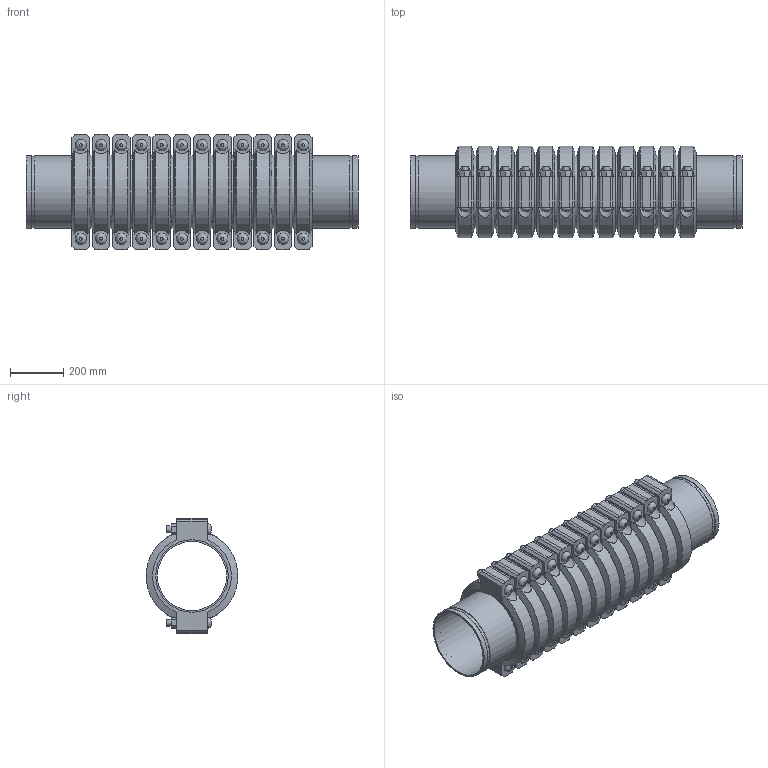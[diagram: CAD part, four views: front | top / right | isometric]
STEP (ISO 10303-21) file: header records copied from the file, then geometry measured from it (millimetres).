
FILE_DESCRIPTION(/* description */ ('VIC EXPANSION JOINT 12 COUPLINGS EXPANDED STYLE 155 (OGS)','CAx-IF Rec.Pracs.---Representation and Presentation of Product Manufacturing Information (PMI)---4.0---2014-10-13'),/* implementation_level */ '2;1');
FILE_NAME(/* name */ 'C:\Users\kkamble\AppData\Roaming\Autodesk\ApplicationPlugins\Victaulic.Temp\A519\Victaulic_IPS_Expansion Joint_Expanded_12 Couplings_Style 155 (OGS)_10 (250).stp',/* time_stamp */ '2021-06-26T23:55:01+02:00',/* author */ ('kkamble'),/* organization */ ('Victaulic'),/* preprocessor_version */ 'ST-DEVELOPER v17.2',/* originating_system */ 'Autodesk Inventor 2019',/* authorisation */ '');
FILE_SCHEMA (('AP242_MANAGED_MODEL_BASED_3D_ENGINEERING_MIM_LF { 1 0 10303 442 1 1 4 }'));
Length unit declared in the file: inch
Products named in the file (4): 155-10.0; Nipple-10.0; Nipple-10.0_1; 077-10.0
Assembly tree (25 placements, depth 2):
  155-10.0
    Nipple-10.0  x2
    Nipple-10.0_1  x11
    077-10.0  x12
Bounding box: 1250.95 x 344.9 x 435.1 mm (x, y, z)
Volume: 40985041 mm3; surface area: 5631253 mm2
Topology: 25 solids, 49 shells, 888 faces, 2130 edges, 1488 vertices
Faces by surface type: plane 510, cylinder 306, cone 48, bspline 24
Full cylindrical faces by diameter (mm): 25.4 x48, 27.432 x24, 260.35 x13, 264.16 x12, 268.275 x26, 273.05 x63
Entity records: 3185 total; most frequent: CARTESIAN_POINT 689, DIRECTION 505, ORIENTED_EDGE 410, AXIS2_PLACEMENT_3D 208, EDGE_CURVE 205, VERTEX_POINT 146, EDGE_LOOP 111, CIRCLE 96
